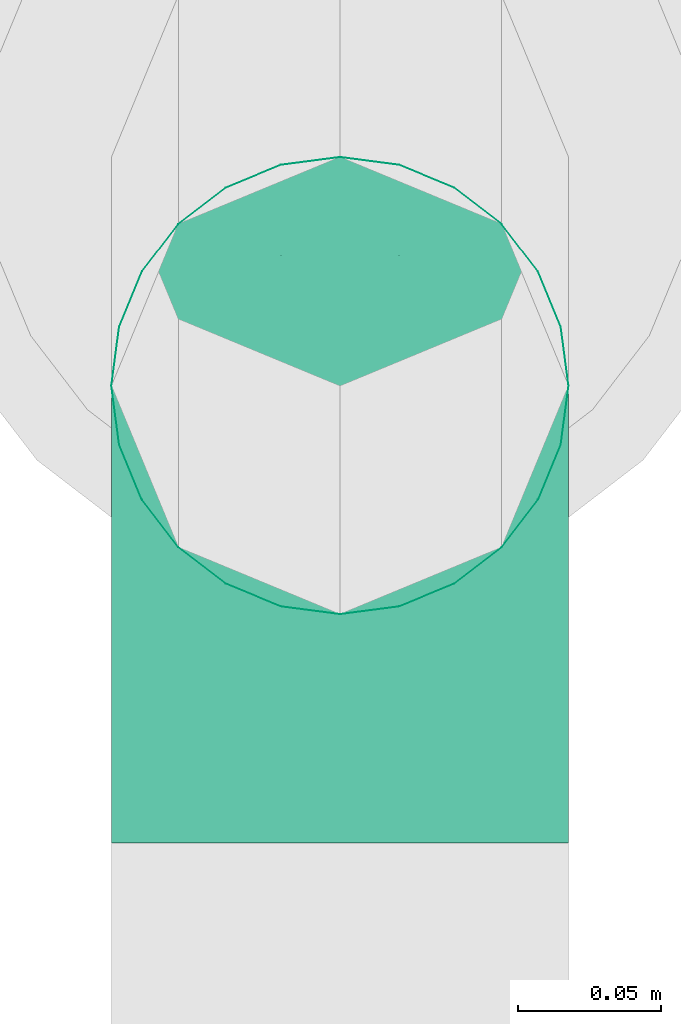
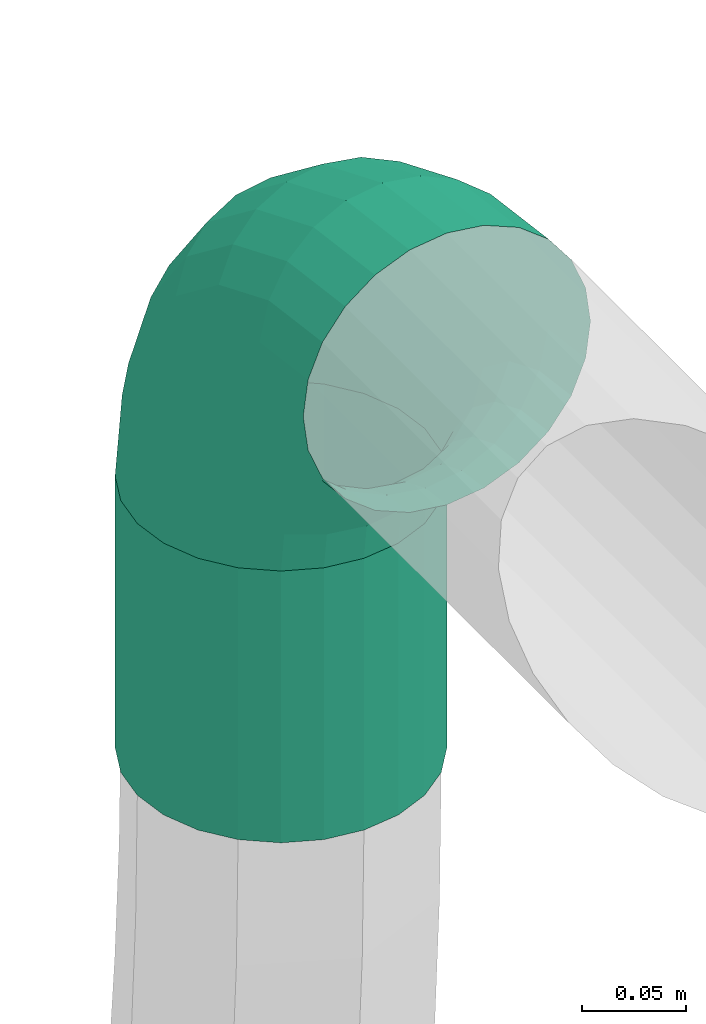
# One storey, part 42 of 374: 1 flow fitting, 1 flow segment.
"""IFC2X3 building model written with IfcOpenShell, lengths in metres."""

from ifc_helpers import new_model, si_unit, direction, origin, place, context, subcontext, project, spatial, open_shell, surface_model, source, transform, mapped, element, save


model = new_model("IFC2X3")

# Units and contexts
model_context = context("Model", 3, precision=1e-05, world=origin(), true_north=direction((-0.4480736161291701, 0.8939966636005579)))
body_context = subcontext(model_context, "Body", "Model", "MODEL_VIEW")
ifc_project = project(units=[si_unit("LENGTHUNIT", "METRE"), si_unit("AREAUNIT", "SQUARE_METRE"), si_unit("VOLUMEUNIT", "CUBIC_METRE"), si_unit("PLANEANGLEUNIT", "RADIAN"), si_unit("THERMODYNAMICTEMPERATUREUNIT", "KELVIN"), si_unit("MASSUNIT", "GRAM", prefix="KILO"), si_unit("TIMEUNIT", "SECOND")], contexts=[model_context])

# Site, building, storey
site_placement = place(None, origin())
site = spatial("IfcSite", under=ifc_project, at=site_placement, Name="Site 1", CompositionType="ELEMENT")
building_placement = place(site_placement, origin())
building = spatial("IfcBuilding", under=site, at=building_placement, Name="Undefined", CompositionType="ELEMENT")
storey_placement = place(building_placement, origin())
storey = spatial("IfcBuildingStorey", under=building, at=storey_placement, Name="Rez de chauss\x8ee", CompositionType="ELEMENT", Elevation=0.0)

# Flow fitting
shared_shape_1 = source(origin(), body_context, "Body", "SurfaceModel", [
    surface_model("IfcFaceBasedSurfaceModel", [(0.06265257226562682, -8.8817842e-16, 0.0), (0.062296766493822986, 0.02088115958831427, -7.105427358e-15), (0.0003558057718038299, 0.020881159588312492, 7.105427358e-15), (0.0, 0.0, 0.0), (-0.059474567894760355, 0.022956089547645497, -0.015896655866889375), (-0.06051773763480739, 0.002098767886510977, -0.01607928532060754), (-0.11311701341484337, 0.02696454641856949, -0.04660663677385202), (-0.11477645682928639, 0.006153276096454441, -0.04714207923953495), (-0.15691588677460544, 0.0326333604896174, -0.09003710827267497), (-0.15907851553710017, 0.01188721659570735, -0.09107150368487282), (-0.18788636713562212, 0.03957621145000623, -0.14322835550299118), (-0.1904048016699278, 0.01890983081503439, -0.14487384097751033), (-0.2039178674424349, 0.04731995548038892, -0.20255548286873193), (-0.20662048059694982, 0.026742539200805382, -0.20488255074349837), (0.061253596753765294, 0.04103889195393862, -0.0053597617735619), (0.0013989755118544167, 0.04103889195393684, -0.005359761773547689), (-0.05641614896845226, 0.04304393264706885, -0.02072097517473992), (-0.10825177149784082, 0.04691737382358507, -0.050396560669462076), (-0.15057538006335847, 0.05239524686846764, -0.09236417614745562), (-0.18050269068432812, 0.05910424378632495, -0.14376379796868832), (-0.19599420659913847, 0.06658715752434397, -0.20109262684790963), (0.05959415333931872, 0.05909948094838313, -0.01571402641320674), (0.003058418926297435, 0.05909948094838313, -0.01571402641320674), (-0.05155090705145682, 0.06099334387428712, -0.030223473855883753), (-0.10051228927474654, 0.06465200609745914, -0.058253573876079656), (-0.1404890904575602, 0.0698261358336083, -0.09789412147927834), (-0.16875695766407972, 0.0761631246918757, -0.14644367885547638), (-0.18338948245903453, 0.08323111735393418, -0.2005936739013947), (0.057431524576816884, 0.07383212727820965, -0.030357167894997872), (0.005221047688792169, 0.07383212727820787, -0.03035716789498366), (-0.0452104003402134, 0.07558110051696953, -0.04375657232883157), (-0.09042599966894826, 0.07895985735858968, -0.06964223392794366), (-0.12734438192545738, 0.08373814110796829, -0.10625008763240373), (-0.15344962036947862, 0.08959031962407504, -0.15108536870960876), (-0.16696268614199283, 0.0961175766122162, -0.20109262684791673), (0.054913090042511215, 0.0842328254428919, -0.048291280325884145), (0.007739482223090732, 0.08423282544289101, -0.04829128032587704), (-0.037826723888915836, 0.08581307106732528, -0.06039801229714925), (-0.07868026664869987, 0.08886587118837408, -0.08378642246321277), (-0.11203704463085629, 0.09318318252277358, -0.11686262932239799), (-0.13562384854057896, 0.09847078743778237, -0.1573725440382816), (-0.14783327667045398, 0.10436834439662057, -0.20255548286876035), (0.05221047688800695, 0.0895927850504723, -0.06829418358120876), (0.010442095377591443, 0.08959278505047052, -0.06829418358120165), (-0.029903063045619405, 0.09099196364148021, -0.07901370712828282), (-0.06607554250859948, 0.09369496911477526, -0.0997222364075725), (-0.0956102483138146, 0.0975175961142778, -0.12900851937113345), (-0.11649443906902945, 0.10219933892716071, -0.16487674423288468), (-0.12730489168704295, 0.1074211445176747, -0.2048825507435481), (0.04950786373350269, 0.08954673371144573, -0.08900271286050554), (0.013144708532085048, 0.08954673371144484, -0.08900271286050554), (-0.02197940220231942, 0.09076484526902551, -0.09833502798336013), (-0.05347081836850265, 0.09311805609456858, -0.11636367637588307), (-0.0791834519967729, 0.09644599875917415, -0.14186003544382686), (-0.09736502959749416, 0.10052187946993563, -0.17308657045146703), (-0.10677650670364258, 0.1050679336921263, -0.20791524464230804), (0.04698942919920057, 0.08409780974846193, -0.10900561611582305), (0.015663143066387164, 0.08409780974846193, -0.10900561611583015), (-0.014595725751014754, 0.08514719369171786, -0.11704525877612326), (-0.0417250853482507, 0.0871744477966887, -0.13257665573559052), (-0.06387611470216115, 0.09004141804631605, -0.15454136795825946), (-0.07953925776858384, 0.09355272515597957, -0.1814425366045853), (-0.08764709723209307, 0.09746907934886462, -0.21144689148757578), (0.04482680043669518, 0.0736173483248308, -0.12693972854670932), (0.017825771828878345, 0.0736173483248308, -0.12693972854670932), (-0.008255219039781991, 0.07452184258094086, -0.13386932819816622), (-0.03163879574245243, 0.0762691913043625, -0.14725628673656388), (-0.050731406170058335, 0.07874031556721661, -0.1661883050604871), (-0.06423192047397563, 0.08176681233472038, -0.18937519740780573), (-0.07122030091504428, 0.08514243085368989, -0.21523681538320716), (0.04316735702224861, 0.058819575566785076, -0.14158287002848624), (0.019485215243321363, 0.058819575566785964, -0.14158287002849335), (-0.0033899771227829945, 0.05961289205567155, -0.14766070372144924), (-0.02389931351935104, 0.06114546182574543, -0.15940217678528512), (-0.04064511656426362, 0.06331284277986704, -0.17600712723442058), (-0.052486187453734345, 0.06596733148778, -0.19634395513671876), (-0.05861557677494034, 0.06892802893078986, -0.2190267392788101), (0.04212418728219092, 0.040712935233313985, -0.15193713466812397), (0.020528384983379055, 0.040712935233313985, -0.15193713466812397), (-0.0003315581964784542, 0.041436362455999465, -0.15747952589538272), (-0.019034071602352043, 0.04283391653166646, -0.16818660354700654), (-0.03430460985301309, 0.04481035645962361, -0.1833286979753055), (-0.04510251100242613, 0.047230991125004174, -0.20187390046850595), (-0.05069191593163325, 0.04993085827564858, -0.22255838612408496), (0.04176838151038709, 0.02053136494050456, -0.15729689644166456), (0.020884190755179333, 0.02053136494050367, -0.15729689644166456), (0.0007116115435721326, 0.021230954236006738, -0.16265665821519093), (-0.017374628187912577, 0.022582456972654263, -0.17301092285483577), (-0.03214198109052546, 0.024493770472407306, -0.1876540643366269), (-0.042584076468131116, 0.026834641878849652, -0.20558817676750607), (-0.04798930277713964, 0.02944554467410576, -0.22559108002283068), (0.04212418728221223, -0.000349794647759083, -0.15729689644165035), (0.020528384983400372, -0.000349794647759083, -0.15729689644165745), (-0.0003315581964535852, 0.00037363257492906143, -0.1628392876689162), (-0.019034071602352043, 0.0017711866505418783, -0.17354636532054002), (-0.03430460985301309, 0.0037476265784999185, -0.18868845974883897), (-0.04510251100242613, 0.00616826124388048, -0.20723366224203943), (-0.05069191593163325, 0.008868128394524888, -0.22791814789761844), (0.04316735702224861, -0.020507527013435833, -0.15193713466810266), (0.019485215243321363, -0.020507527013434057, -0.15193713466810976), (-0.0033899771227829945, -0.019714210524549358, -0.15801496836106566), (-0.02389931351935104, -0.01818164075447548, -0.16975644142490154), (-0.04064511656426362, -0.01601425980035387, -0.186361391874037), (-0.052486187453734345, -0.013359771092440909, -0.20669821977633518), (-0.05861557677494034, -0.010399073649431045, -0.22938100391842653), (0.04482680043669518, -0.03856811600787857, -0.1415828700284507), (0.017825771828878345, -0.03856811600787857, -0.1415828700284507), (-0.008255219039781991, -0.03766362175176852, -0.1485124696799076), (-0.03163879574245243, -0.03591627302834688, -0.16189942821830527), (-0.050731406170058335, -0.03344514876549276, -0.1808314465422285), (-0.06423192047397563, -0.030418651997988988, -0.20401833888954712), (-0.07122030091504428, -0.027043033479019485, -0.22987995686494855), (0.04698942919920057, -0.05330076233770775, -0.12693972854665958), (0.015663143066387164, -0.05330076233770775, -0.12693972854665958), (-0.014595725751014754, -0.05225137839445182, -0.1349793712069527), (-0.0417250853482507, -0.05022412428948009, -0.15051076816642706), (-0.06387611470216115, -0.047357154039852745, -0.172475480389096), (-0.07953925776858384, -0.043845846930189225, -0.19937664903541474), (-0.08764709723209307, -0.03992949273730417, -0.2293810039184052), (0.04950786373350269, -0.06370146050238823, -0.10900561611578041), (0.013144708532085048, -0.06370146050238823, -0.10900561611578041), (-0.02197940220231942, -0.06248334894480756, -0.11833793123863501), (-0.05347081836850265, -0.06013013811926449, -0.13636657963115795), (-0.0791834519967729, -0.05680219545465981, -0.16186293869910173), (-0.09736502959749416, -0.05272631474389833, -0.1930894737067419), (-0.10677650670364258, -0.04818026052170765, -0.2279181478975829), (0.05221047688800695, -0.06906142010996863, -0.08900271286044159), (0.010442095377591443, -0.06906142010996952, -0.08900271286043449), (-0.029903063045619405, -0.06766224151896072, -0.09972223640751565), (-0.06607554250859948, -0.06495923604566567, -0.12043076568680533), (-0.0956102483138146, -0.06113660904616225, -0.14971704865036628), (-0.11649443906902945, -0.05645486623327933, -0.1855852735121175), (-0.12730489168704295, -0.05123306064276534, -0.22559108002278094), (0.054913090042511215, -0.06901536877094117, -0.06829418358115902), (0.007739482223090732, -0.06901536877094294, -0.06829418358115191), (-0.037826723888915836, -0.06743512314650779, -0.08040091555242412), (-0.07868026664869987, -0.06438232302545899, -0.10378932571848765), (-0.11203704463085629, -0.06006501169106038, -0.13686553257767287), (-0.13562384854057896, -0.0547774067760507, -0.17737544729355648), (-0.14783327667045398, -0.04887984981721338, -0.22255838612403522), (0.057431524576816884, -0.06356644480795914, -0.0482912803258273), (0.005221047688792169, -0.06356644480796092, -0.04829128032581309), (-0.0452104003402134, -0.061817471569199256, -0.0616906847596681), (-0.09042599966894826, -0.05843871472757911, -0.0875763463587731), (-0.12734438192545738, -0.05366043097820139, -0.12418420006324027), (-0.15344962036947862, -0.04780825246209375, -0.1690194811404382), (-0.16696268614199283, -0.041280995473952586, -0.21902673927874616), (0.05959415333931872, -0.05308598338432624, -0.030357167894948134), (0.003058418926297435, -0.05308598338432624, -0.030357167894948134), (-0.05155090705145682, -0.05119212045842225, -0.04486661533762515), (-0.10051228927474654, -0.04753345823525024, -0.07289671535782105), (-0.1404890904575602, -0.04235932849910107, -0.11253726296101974), (-0.16875695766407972, -0.03602233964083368, -0.16108682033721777), (-0.18338948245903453, -0.02895434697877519, -0.2152368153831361), (0.061253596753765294, -0.03828821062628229, -0.015714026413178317), (0.0013989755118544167, -0.03828821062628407, -0.015714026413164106), (-0.05641614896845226, -0.03628316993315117, -0.031075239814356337), (-0.10825177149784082, -0.03240972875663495, -0.06075082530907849), (-0.15057538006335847, -0.026931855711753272, -0.10271844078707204), (-0.18050269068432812, -0.02022285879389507, -0.15411806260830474), (-0.19599420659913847, -0.012739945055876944, -0.21144689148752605), (0.062296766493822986, -0.020181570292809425, -0.005359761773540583), (0.0003558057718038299, -0.020181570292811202, -0.0053597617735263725), (-0.059474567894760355, -0.018106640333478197, -0.021256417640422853), (-0.11311701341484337, -0.014098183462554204, -0.051966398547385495), (-0.15691588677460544, -0.00842936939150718, -0.09539687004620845), (-0.18788636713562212, -0.0014865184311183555, -0.14858811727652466), (-0.2039178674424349, 0.006257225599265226, -0.2079152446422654)], [open_shell([[[0, 1, 2, 3]], [[3, 2, 4, 5]], [[5, 4, 6, 7]], [[7, 6, 8, 9]], [[9, 8, 10, 11]], [[11, 10, 12, 13]], [[1, 14, 15, 2]], [[2, 15, 16, 4]], [[4, 16, 17, 6]], [[6, 17, 18, 8]], [[8, 18, 19, 10]], [[10, 19, 20, 12]], [[14, 21, 22, 15]], [[15, 22, 23, 16]], [[16, 23, 24, 17]], [[17, 24, 25, 18]], [[18, 25, 26, 19]], [[19, 26, 27, 20]], [[21, 28, 29, 22]], [[22, 29, 30, 23]], [[23, 30, 31, 24]], [[24, 31, 32, 25]], [[25, 32, 33, 26]], [[26, 33, 34, 27]], [[28, 35, 36, 29]], [[29, 36, 37, 30]], [[30, 37, 38, 31]], [[31, 38, 39, 32]], [[32, 39, 40, 33]], [[33, 40, 41, 34]], [[35, 42, 43, 36]], [[36, 43, 44, 37]], [[37, 44, 45, 38]], [[38, 45, 46, 39]], [[39, 46, 47, 40]], [[40, 47, 48, 41]], [[42, 49, 50, 43]], [[43, 50, 51, 44]], [[44, 51, 52, 45]], [[45, 52, 53, 46]], [[46, 53, 54, 47]], [[47, 54, 55, 48]], [[49, 56, 57, 50]], [[50, 57, 58, 51]], [[51, 58, 59, 52]], [[52, 59, 60, 53]], [[53, 60, 61, 54]], [[54, 61, 62, 55]], [[56, 63, 64, 57]], [[57, 64, 65, 58]], [[58, 65, 66, 59]], [[59, 66, 67, 60]], [[60, 67, 68, 61]], [[61, 68, 69, 62]], [[63, 70, 71, 64]], [[64, 71, 72, 65]], [[65, 72, 73, 66]], [[66, 73, 74, 67]], [[67, 74, 75, 68]], [[68, 75, 76, 69]], [[70, 77, 78, 71]], [[71, 78, 79, 72]], [[72, 79, 80, 73]], [[73, 80, 81, 74]], [[74, 81, 82, 75]], [[75, 82, 83, 76]], [[77, 84, 85, 78]], [[78, 85, 86, 79]], [[79, 86, 87, 80]], [[80, 87, 88, 81]], [[81, 88, 89, 82]], [[82, 89, 90, 83]], [[84, 91, 92, 85]], [[85, 92, 93, 86]], [[86, 93, 94, 87]], [[87, 94, 95, 88]], [[88, 95, 96, 89]], [[89, 96, 97, 90]], [[91, 98, 99, 92]], [[92, 99, 100, 93]], [[93, 100, 101, 94]], [[94, 101, 102, 95]], [[95, 102, 103, 96]], [[96, 103, 104, 97]], [[98, 105, 106, 99]], [[99, 106, 107, 100]], [[100, 107, 108, 101]], [[101, 108, 109, 102]], [[102, 109, 110, 103]], [[103, 110, 111, 104]], [[105, 112, 113, 106]], [[106, 113, 114, 107]], [[107, 114, 115, 108]], [[108, 115, 116, 109]], [[109, 116, 117, 110]], [[110, 117, 118, 111]], [[112, 119, 120, 113]], [[113, 120, 121, 114]], [[114, 121, 122, 115]], [[115, 122, 123, 116]], [[116, 123, 124, 117]], [[117, 124, 125, 118]], [[119, 126, 127, 120]], [[120, 127, 128, 121]], [[121, 128, 129, 122]], [[122, 129, 130, 123]], [[123, 130, 131, 124]], [[124, 131, 132, 125]], [[126, 133, 134, 127]], [[127, 134, 135, 128]], [[128, 135, 136, 129]], [[129, 136, 137, 130]], [[130, 137, 138, 131]], [[131, 138, 139, 132]], [[133, 140, 141, 134]], [[134, 141, 142, 135]], [[135, 142, 143, 136]], [[136, 143, 144, 137]], [[137, 144, 145, 138]], [[138, 145, 146, 139]], [[140, 147, 148, 141]], [[141, 148, 149, 142]], [[142, 149, 150, 143]], [[143, 150, 151, 144]], [[144, 151, 152, 145]], [[145, 152, 153, 146]], [[147, 154, 155, 148]], [[148, 155, 156, 149]], [[149, 156, 157, 150]], [[150, 157, 158, 151]], [[151, 158, 159, 152]], [[152, 159, 160, 153]], [[154, 161, 162, 155]], [[155, 162, 163, 156]], [[156, 163, 164, 157]], [[157, 164, 165, 158]], [[158, 165, 166, 159]], [[159, 166, 167, 160]], [[161, 0, 3, 162]], [[162, 3, 5, 163]], [[163, 5, 7, 164]], [[164, 7, 9, 165]], [[165, 9, 11, 166]], [[166, 11, 13, 167]]])]),
])
flow_fitting_placement = place(storey_placement, origin())
element("IfcFlowFitting", 1, at=flow_fitting_placement, inside=storey, Name="Coude", ObjectType="Coude", context=body_context, shape_type="MappedRepresentation", body=[
    mapped(shared_shape_1, transform((18.980053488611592, 16.947119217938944, 3.7021165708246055), x_axis=(0.0, 0.13052619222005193, -0.9914448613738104), y_axis=(-0.9915887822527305, -0.12832103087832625, -0.016893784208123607), z_axis=(-0.12942830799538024, 0.9831056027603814, 0.12942830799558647))),
])

# Flow segment
shared_shape_2 = source(origin(), body_context, "Body", "SurfaceModel", [
    surface_model("IfcFaceBasedSurfaceModel", [(0.0, 0.020884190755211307, 0.0), (0.0, 0.0, 0.0), (0.16000000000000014, 0.0, -4.4408921e-16), (0.16000000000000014, 0.0208841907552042, -4.4408921e-16), (0.0, -0.020172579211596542, -0.005405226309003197), (0.16000000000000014, -0.020172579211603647, -0.005405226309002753), (0.0, -0.03825881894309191, -0.015847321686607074), (0.16000000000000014, -0.03825881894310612, -0.015847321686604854), (0.0, -0.05302617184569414, -0.0306146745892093), (0.16000000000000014, -0.05302617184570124, -0.03061467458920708), (0.0, -0.06346826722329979, -0.04870091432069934), (0.16000000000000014, -0.0634682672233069, -0.04870091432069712), (0.0, -0.06887349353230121, -0.06887349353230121), (0.16000000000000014, -0.06887349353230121, -0.06887349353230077), (0.0, -0.06887349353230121, -0.08975768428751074), (0.16000000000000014, -0.06887349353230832, -0.08975768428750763), (0.0, -0.06346826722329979, -0.10993026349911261), (0.16000000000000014, -0.0634682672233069, -0.10993026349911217), (0.0, -0.05302617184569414, -0.12801650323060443), (0.16000000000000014, -0.05302617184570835, -0.1280165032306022), (0.0, -0.038258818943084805, -0.14278385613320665), (0.16000000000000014, -0.03825881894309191, -0.14278385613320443), (0.0, -0.020172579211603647, -0.15322595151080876), (0.16000000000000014, -0.020172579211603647, -0.1532259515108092), (0.0, 7.105427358e-15, -0.15863117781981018), (0.16000000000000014, -7.105427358e-15, -0.15863117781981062), (0.0, 0.020884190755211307, -0.15863117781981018), (0.16000000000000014, 0.0208841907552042, -0.15863117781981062), (0.0, 0.04105676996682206, -0.15322595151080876), (0.16000000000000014, 0.04105676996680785, -0.1532259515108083), (0.0, 0.05914300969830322, -0.1427838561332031), (0.16000000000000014, 0.05914300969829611, -0.14278385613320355), (0.0, 0.07391036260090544, -0.12801650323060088), (0.16000000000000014, 0.07391036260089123, -0.1280165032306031), (0.0, 0.0843524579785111, -0.10993026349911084), (0.16000000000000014, 0.08435245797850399, -0.10993026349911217), (0.0, 0.08975768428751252, -0.08975768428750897), (0.16000000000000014, 0.08975768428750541, -0.08975768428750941), (0.0, 0.08975768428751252, -0.06887349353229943), (0.16000000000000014, 0.08975768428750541, -0.06887349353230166), (0.0, 0.0843524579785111, -0.048700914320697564), (0.16000000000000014, 0.08435245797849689, -0.04870091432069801), (0.0, 0.07391036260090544, -0.030614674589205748), (0.16000000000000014, 0.07391036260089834, -0.03061467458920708), (0.0, 0.05914300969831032, -0.015847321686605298), (0.16000000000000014, 0.05914300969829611, -0.01584732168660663), (0.0, 0.04105676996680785, -0.005405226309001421), (0.16000000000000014, 0.04105676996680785, -0.005405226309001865)], [open_shell([[[0, 1, 2, 3]], [[1, 4, 5, 2]], [[4, 6, 7, 5]], [[6, 8, 9, 7]], [[8, 10, 11, 9]], [[10, 12, 13, 11]], [[12, 14, 15, 13]], [[14, 16, 17, 15]], [[16, 18, 19, 17]], [[18, 20, 21, 19]], [[20, 22, 23, 21]], [[22, 24, 25, 23]], [[24, 26, 27, 25]], [[26, 28, 29, 27]], [[28, 30, 31, 29]], [[30, 32, 33, 31]], [[32, 34, 35, 33]], [[34, 36, 37, 35]], [[36, 38, 39, 37]], [[38, 40, 41, 39]], [[40, 42, 43, 41]], [[42, 44, 45, 43]], [[44, 46, 47, 45]], [[46, 0, 3, 47]]])]),
])
flow_segment_placement = place(storey_placement, origin())
element("IfcFlowSegment", 2, at=flow_segment_placement, inside=storey, Name="Tube", ObjectType="Tube", context=body_context, shape_type="MappedRepresentation", body=[
    mapped(shared_shape_2, transform((19.000759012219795, 16.798022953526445, 3.4800000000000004), x_axis=(0.0, 0.0, 1.0), y_axis=(-0.9914448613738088, -0.13052619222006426, 0.0), z_axis=(0.13052619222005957, -0.9914448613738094, 0.0))),
])

save(model, "model.ifc")
